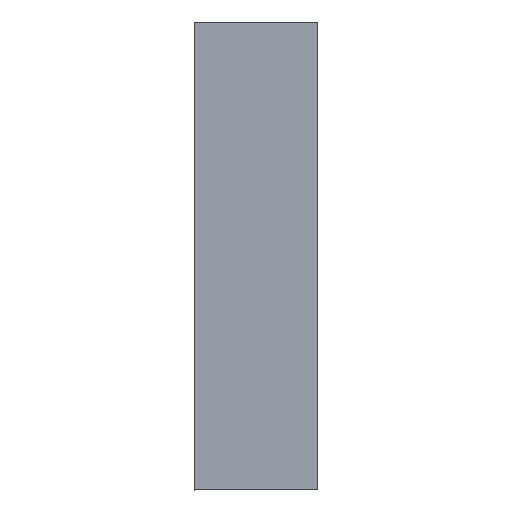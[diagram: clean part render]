
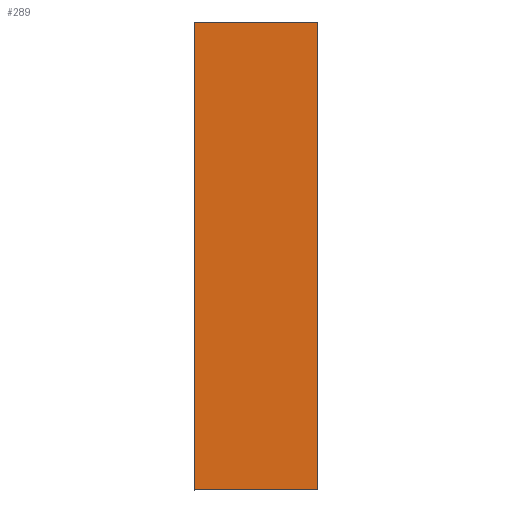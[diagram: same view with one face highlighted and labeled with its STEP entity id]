
A CAD part, top view. The second image highlights one B-rep face of the part: STEP entity #289.
In plain terms, the highlighted planar face has unit normal (0, 0, 1).
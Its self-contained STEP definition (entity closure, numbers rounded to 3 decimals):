
#162=ORIENTED_EDGE('',*,*,#201,.T.);
#163=ORIENTED_EDGE('',*,*,#209,.T.);
#164=ORIENTED_EDGE('',*,*,#207,.F.);
#165=ORIENTED_EDGE('',*,*,#204,.F.);
#169=VECTOR('',#227,1.);
#172=VECTOR('',#232,1.);
#175=VECTOR('',#237,1.);
#177=VECTOR('',#241,1.);
#181=LINE('',#254,#169);
#184=LINE('',#260,#172);
#187=LINE('',#266,#175);
#189=LINE('',#269,#177);
#191=VERTEX_POINT('',#248);
#193=VERTEX_POINT('',#252);
#195=VERTEX_POINT('',#257);
#197=VERTEX_POINT('',#263);
#201=EDGE_CURVE('',#191,#193,#181,.T.);
#204=EDGE_CURVE('',#191,#195,#184,.T.);
#207=EDGE_CURVE('',#195,#197,#187,.T.);
#209=EDGE_CURVE('',#193,#197,#189,.T.);
#215=EDGE_LOOP('',(#162,#163,#164,#165));
#221=FACE_BOUND('',#215,.T.);
#227=DIRECTION('',(45.,0.,0.));
#232=DIRECTION('',(0.,170.,0.));
#237=DIRECTION('',(45.,0.,0.));
#241=DIRECTION('',(0.,170.,0.));
#244=DIRECTION('',(0.,0.,1.));
#245=DIRECTION('',(0.,-1.,0.));
#248=CARTESIAN_POINT('',(744.223,200.75,10.));
#252=CARTESIAN_POINT('',(789.222,200.75,10.));
#254=CARTESIAN_POINT('',(744.223,200.75,10.));
#257=CARTESIAN_POINT('',(744.223,370.75,10.));
#260=CARTESIAN_POINT('',(744.223,200.75,10.));
#263=CARTESIAN_POINT('',(789.222,370.75,10.));
#266=CARTESIAN_POINT('',(744.223,370.75,10.));
#269=CARTESIAN_POINT('',(789.222,200.75,10.));
#271=CARTESIAN_POINT('',(0.,0.,10.));
#277=AXIS2_PLACEMENT_3D('',#271,#244,#245);
#283=PLANE('',#277);
#289=ADVANCED_FACE('',(#221),#283,.T.);
